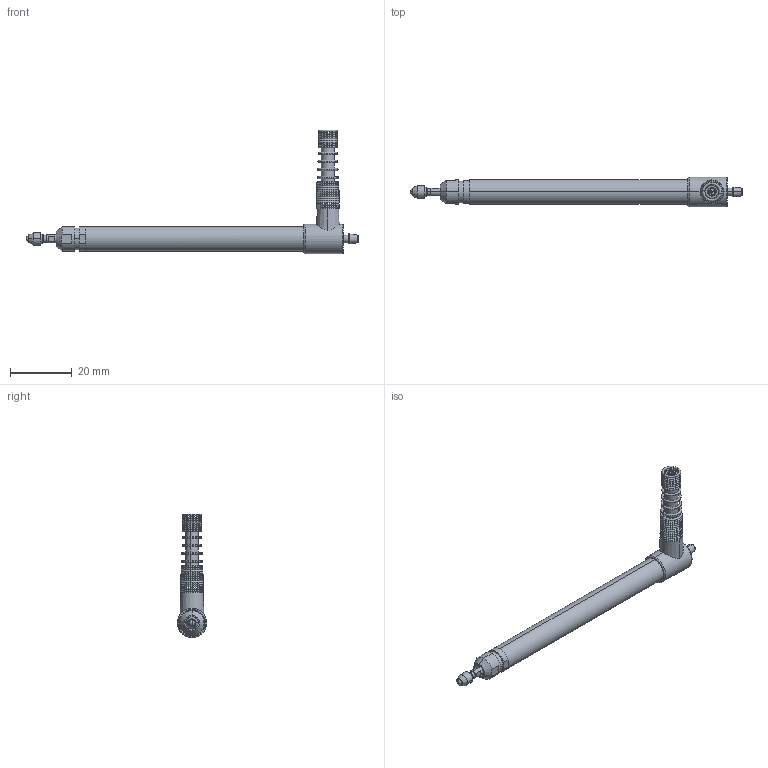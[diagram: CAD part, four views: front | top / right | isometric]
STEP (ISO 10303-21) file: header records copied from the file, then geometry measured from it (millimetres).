
FILE_DESCRIPTION (( 'STEP AP214' ), '1' );
FILE_NAME ('FULL_DP10VAL.STEP', '2022-04-12T04:55:12', ( 'User' ), ( '' ), 'SwSTEP 2.0', 'SolidWorks 2018', '' );
FILE_SCHEMA (( 'AUTOMOTIVE_DESIGN' ));
Length unit declared in the file: millimetre
Products named in the file (1): FULL_DP10VAL
Bounding box: 107.9 x 9.6 x 40.1 mm (x, y, z)
Surface area: 4814.2 mm2 (no closed solid volume)
Topology: 0 solids, 41 shells, 204 faces, 511 edges, 326 vertices
Faces by surface type: torus 110, cylinder 50, plane 34, cone 8, sphere 2
Entity records: 8746 total; most frequent: CARTESIAN_POINT 1380, DIRECTION 1258, ORIENTED_EDGE 896, AXIS2_PLACEMENT_3D 567, EDGE_CURVE 509, CIRCLE 362, VERTEX_POINT 326, EDGE_LOOP 229
